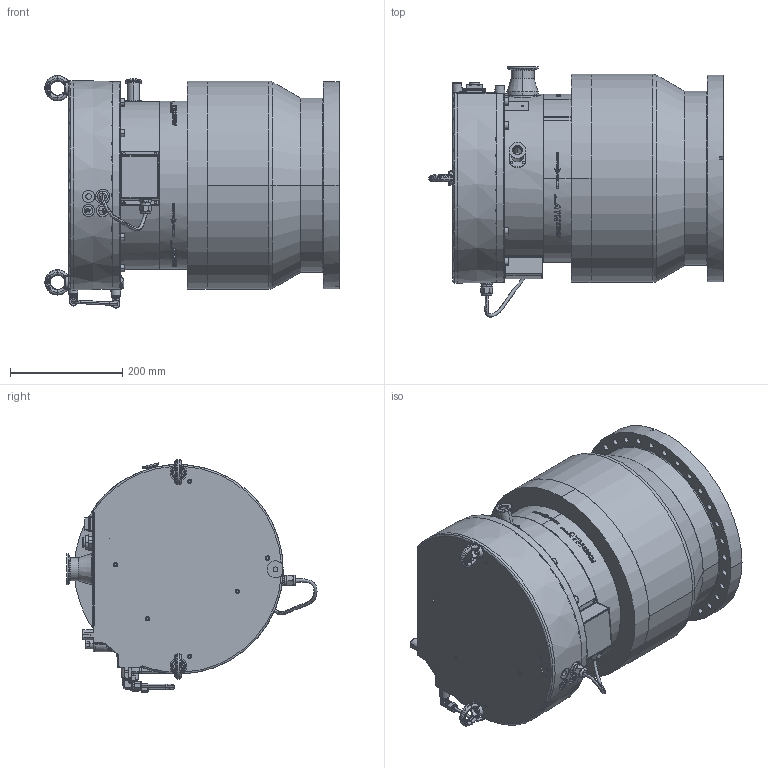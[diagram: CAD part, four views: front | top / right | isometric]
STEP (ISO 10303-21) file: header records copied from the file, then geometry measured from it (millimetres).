
FILE_DESCRIPTION((''),'2;1');
FILE_NAME('ENV-ATH3204M-ENVELOPPE-GEN','2018-10-03T',('RCRIADO'),(''),'PRO/ENGINEER BY PARAMETRIC TECHNOLOGY CORPORATION, 2015280','PRO/ENGINEER BY PARAMETRIC TECHNOLOGY CORPORATION, 2015280','');
FILE_SCHEMA(('CONFIG_CONTROL_DESIGN'));
Length unit declared in the file: millimetre
Products named in the file (1): ENV-ATH3204M-ENVELOPPE-GEN
Bounding box: 524.28 x 445.4 x 414.98 mm (x, y, z)
Volume: 44377230.4 mm3; surface area: 1525137.2 mm2
Topology: 12 solids, 92 shells, 5970 faces, 15208 edges, 9713 vertices
Faces by surface type: bspline 2620, plane 1561, cylinder 1340, cone 263, torus 143, sphere 35, extrusion 8
Entity records: 333167 total; most frequent: CARTESIAN_POINT 207635, ORIENTED_EDGE 30276, DIRECTION 18236, EDGE_CURVE 15138, VERTEX_POINT 9715, B_SPLINE_CURVE_WITH_KNOTS 6568, EDGE_LOOP 6505, AXIS2_PLACEMENT_3D 6308
